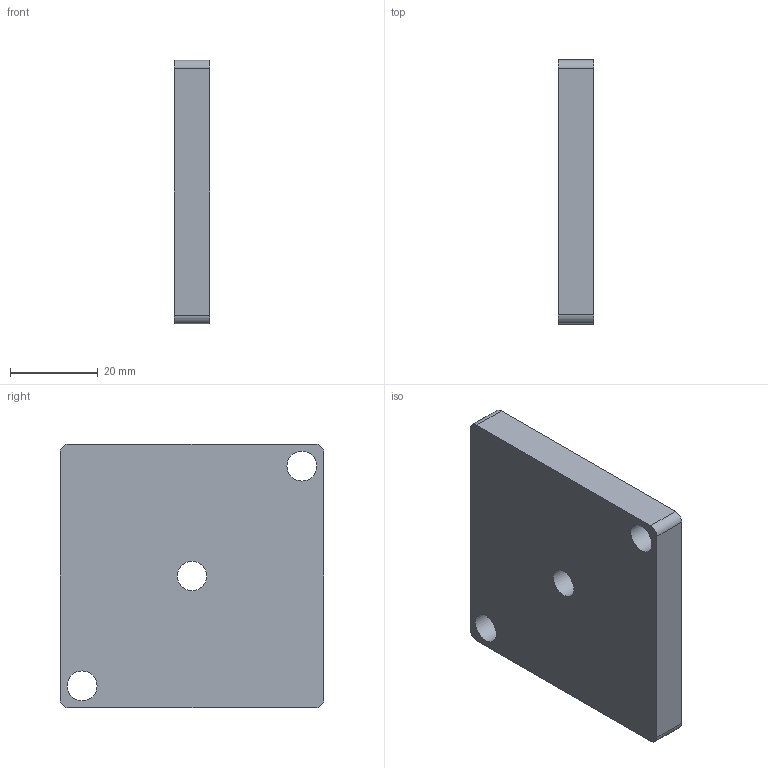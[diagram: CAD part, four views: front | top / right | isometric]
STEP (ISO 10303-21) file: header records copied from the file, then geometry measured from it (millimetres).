
FILE_DESCRIPTION(/* description */ ('ENDPLATE FOR FOOT M8, PROFILE 60x60'),/* implementation_level */ '2;1');
FILE_NAME(/* name */ '\\carryline.intra\privat\users\mathias\Desktop\Tillfälliga filer\100-1167.stp',/* time_stamp */ '2018-11-19T10:55:15+01:00',/* author */ ('ML'),/* organization */ ('CARRYLINE'),/* preprocessor_version */ 'ST-DEVELOPER v17',/* originating_system */ 'Autodesk Inventor 2018',/* authorisation */ '');
FILE_SCHEMA (('AUTOMOTIVE_DESIGN { 1 0 10303 214 3 1 1 }'));
Length unit declared in the file: millimetre
Products named in the file (1): 100-1167
Bounding box: 8 x 60 x 60 mm (x, y, z)
Volume: 27913.9 mm3; surface area: 9379.9 mm2
Topology: 1 solids, 1 shells, 13 faces, 36 edges, 25 vertices
Faces by surface type: cylinder 7, plane 6
Full cylindrical faces by diameter (mm): 6.647 x1, 6.8 x2
Entity records: 482 total; most frequent: DIRECTION 81, CARTESIAN_POINT 75, ORIENTED_EDGE 72, EDGE_CURVE 36, AXIS2_PLACEMENT_3D 31, VERTEX_POINT 25, EDGE_LOOP 19, LINE 19
